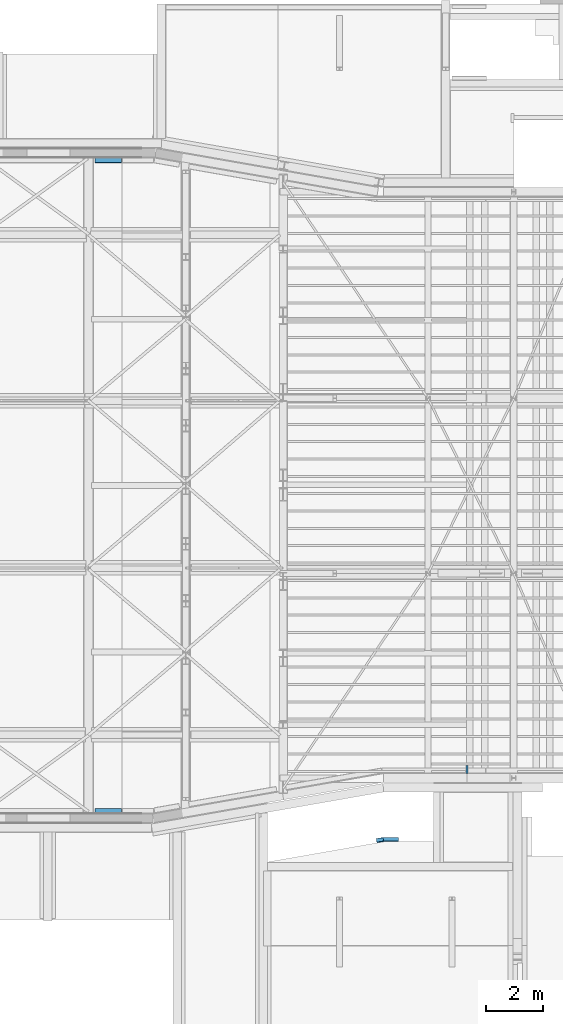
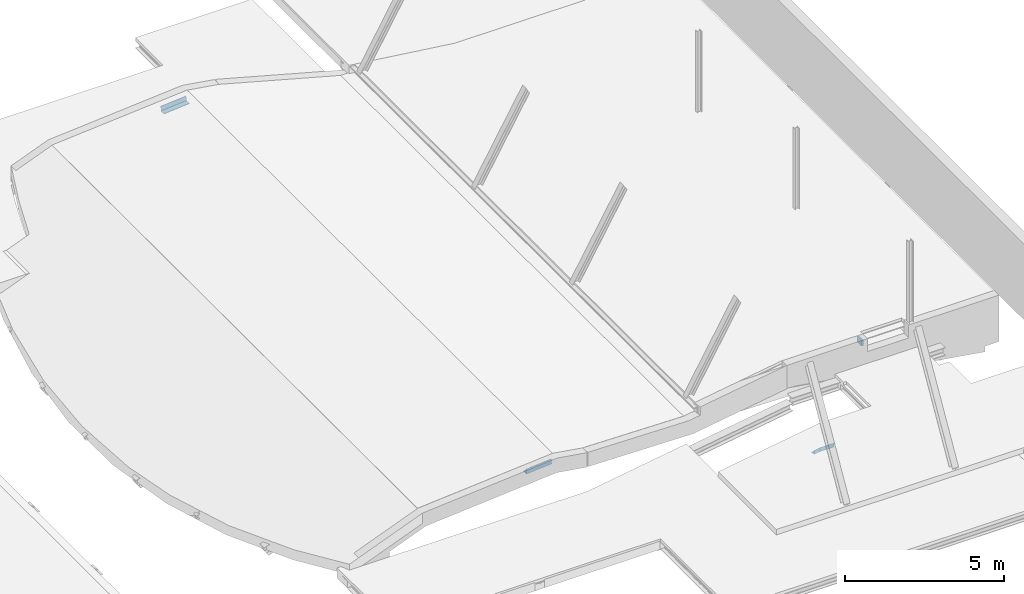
# One storey, part 35 of 50: 5 beams.
"""IFC2X3 building model written with IfcOpenShell, lengths in millimetres."""

import ifcopenshell
import ifcopenshell.guid

model = None  # the IFC model being written
_history = None  # IfcOwnerHistory: only IFC2X3 demands one
_inside = {}  # id of a spatial element -> (the spatial element, [elements in it])
_under = {}  # id of a project, library or spatial element -> (it, [spatial elements below it])
_declared = {}  # id of a project -> (the project, [libraries it declares])
_typed = {}  # id of a type object -> (the type object, [elements of that type])
_made_of = {}  # id of a material, layer set ... -> (it, [elements and type objects made of it])


def new_model(schema):
    """Start an empty IFC model of exactly this schema.

    Asked for "IFC4X3", IfcOpenShell would pick the latest addendum, in which some entities
    have other attributes; the version numbers below select the first issue.
    IFC2X3 requires an IfcOwnerHistory on every rooted entity: one is made here for all.
    """
    global model, _history
    if schema == "IFC4X3":
        model = ifcopenshell.file(schema_version=(4, 3, 0, 0))
    else:
        model = ifcopenshell.file(schema=schema)
    _inside.clear()
    _under.clear()
    _declared.clear()
    _typed.clear()
    _made_of.clear()
    _history = None
    if model.schema == "IFC2X3":
        org = make("IfcOrganization", Name="unknown")
        user = make(
            "IfcPersonAndOrganization",
            ThePerson=make("IfcPerson", FamilyName="unknown"),
            TheOrganization=org,
        )
        app = make(
            "IfcApplication",
            ApplicationDeveloper=org,
            Version="unknown",
            ApplicationFullName="unknown",
            ApplicationIdentifier="unknown",
        )
        _history = make(
            "IfcOwnerHistory",
            OwningUser=user,
            OwningApplication=app,
            ChangeAction="ADDED",
            CreationDate=0,
        )
    return model


def make(cls, **values):
    """One entity of the class cls with the attributes given. An attribute that is None is left unset."""
    return model.create_entity(
        cls, **{name: value for name, value in values.items() if value is not None}
    )


def entity(cls, *values):
    """Any entity or typed value of the class cls, its attributes in the order of the schema. None: left unset."""
    e = model.create_entity(cls)
    for i, value in enumerate(values):
        if value is not None:
            e[i] = value
    return e


def rooted(cls, **values):
    """An entity with a GlobalId (a new one), such as an element, a storey or a relation."""
    return make(cls, GlobalId=ifcopenshell.guid.new(), OwnerHistory=_history, **values)


def si_unit(unit_type, name, prefix=None):
    """IfcSIUnit, for example si_unit("LENGTHUNIT", "METRE", prefix="MILLI")."""
    return make("IfcSIUnit", UnitType=unit_type, Prefix=prefix, Name=name)


def converted_unit(unit_type, name, factor, base, dimensions=None, offset=None):
    """IfcConversionBasedUnit, such as the inch: factor (a typed value) times the base unit."""
    return make(
        "IfcConversionBasedUnit"
        if offset is None
        else "IfcConversionBasedUnitWithOffset",
        ConversionOffset=offset,
        Dimensions=None
        if dimensions is None
        else entity("IfcDimensionalExponents", *dimensions),
        UnitType=unit_type,
        Name=name,
        ConversionFactor=make(
            "IfcMeasureWithUnit", ValueComponent=factor, UnitComponent=base
        ),
    )


def derived_unit(unit_type, elements):
    """IfcDerivedUnit: a product of units, each with its exponent."""
    return make(
        "IfcDerivedUnit",
        Elements=[
            make("IfcDerivedUnitElement", Unit=unit, Exponent=power)
            for unit, power in elements
        ],
        UnitType=unit_type,
    )


def assignment(units):
    """IfcUnitAssignment: the units of a project."""
    return None if units is None else make("IfcUnitAssignment", Units=units)


def point(xyz):
    """IfcCartesianPoint."""
    return None if xyz is None else make("IfcCartesianPoint", Coordinates=xyz)


def direction(xyz):
    """IfcDirection."""
    return None if xyz is None else make("IfcDirection", DirectionRatios=xyz)


def frame(location, z_axis=None, x_axis=None):
    """IfcAxis2Placement3D, a coordinate frame: its origin and axes. An axis left out is left unset."""
    return make(
        "IfcAxis2Placement3D",
        Location=point(location),
        Axis=direction(z_axis),
        RefDirection=direction(x_axis),
    )


def frame_2d(location, x_axis=None):
    """IfcAxis2Placement2D, a coordinate frame in the plane: its origin and x axis."""
    return make(
        "IfcAxis2Placement2D", Location=point(location), RefDirection=direction(x_axis)
    )


def origin():
    """The frame at (0, 0, 0) with its axes left unset."""
    return frame((0.0, 0.0, 0.0))


def place(relative_to, where):
    """IfcLocalPlacement: puts the frame where relative to a parent placement (None: the world)."""
    return make(
        "IfcLocalPlacement", PlacementRelTo=relative_to, RelativePlacement=where
    )


def context(
    kind, dimensions, precision=None, world=None, true_north=None, identifier=None
):
    """IfcGeometricRepresentationContext, for example the 3D "Model" context."""
    return make(
        "IfcGeometricRepresentationContext",
        ContextIdentifier=identifier,
        ContextType=kind,
        CoordinateSpaceDimension=dimensions,
        Precision=precision,
        WorldCoordinateSystem=world,
        TrueNorth=true_north,
    )


def subcontext(parent, identifier, kind, view, scale=None):
    """IfcGeometricRepresentationSubContext, for example "Body" below "Model"."""
    return make(
        "IfcGeometricRepresentationSubContext",
        ContextIdentifier=identifier,
        ContextType=kind,
        ParentContext=parent,
        TargetScale=scale,
        TargetView=view,
    )


def project(units=None, contexts=None):
    """IfcProject with its units and contexts."""
    return rooted(
        "IfcProject",
        Name="project",
        RepresentationContexts=contexts,
        UnitsInContext=assignment(units),
    )


def spatial(cls, under=None, at=None, **own):
    """A site, building, storey or space (cls), placed at a placement, below another one or the project."""
    s = rooted(cls, ObjectPlacement=at, **own)
    if under is not None:
        _under.setdefault(under.id(), (under, []))[1].append(s)
    return s


def polyline(points):
    """IfcPolyline through the points."""
    return make("IfcPolyline", Points=[point(p) for p in points])


def circle_curve(where, radius):
    """IfcCircle in the frame where."""
    return make("IfcCircle", Position=where, Radius=radius)


def parameter(value):
    """IfcParameterValue: where a trimmed curve begins or ends, as a parameter of its basis curve."""
    return model.create_entity("IfcParameterValue", value)


def trimmed(basis, trim1, trim2, sense, master):
    """IfcTrimmedCurve: the piece of a basis curve between two trims."""
    return make(
        "IfcTrimmedCurve",
        BasisCurve=basis,
        Trim1=trim1,
        Trim2=trim2,
        SenseAgreement=sense,
        MasterRepresentation=master,
    )


def segment(curve, same_sense, transition):
    """IfcCompositeCurveSegment."""
    return make(
        "IfcCompositeCurveSegment",
        Transition=transition,
        SameSense=same_sense,
        ParentCurve=curve,
    )


def composite_curve(segments, self_intersect=None):
    """IfcCompositeCurve: segments joined end to end."""
    return make("IfcCompositeCurve", Segments=segments, SelfIntersect=self_intersect)


def profile(cls, at=None, kind="AREA", **sizes):
    """A parametric profile (cls). Its sizes go by their IFC names, for example OverallWidth=200.0."""
    return make(cls, ProfileType=kind, Position=at, **sizes)


def rectangle(**sizes):
    """IfcRectangleProfileDef."""
    return profile("IfcRectangleProfileDef", **sizes)


def outline(outer, holes=None, kind="AREA"):
    """IfcArbitraryClosedProfileDef: a profile drawn as a closed curve; with holes, ...WithVoids."""
    if holes is None:
        return make("IfcArbitraryClosedProfileDef", ProfileType=kind, OuterCurve=outer)
    return make(
        "IfcArbitraryProfileDefWithVoids",
        ProfileType=kind,
        OuterCurve=outer,
        InnerCurves=holes,
    )


def extrude(swept, where, along, depth):
    """IfcExtrudedAreaSolid: the profile swept, set in the frame where, extruded along a direction by depth."""
    return make(
        "IfcExtrudedAreaSolid",
        SweptArea=swept,
        Position=where,
        ExtrudedDirection=direction(along),
        Depth=depth,
    )


def clip(a, b, op="DIFFERENCE"):
    """IfcBooleanClippingResult: the solid a cut by the half space b."""
    return make(
        "IfcBooleanClippingResult", Operator=op, FirstOperand=a, SecondOperand=b
    )


def halfspace(plane, agree):
    """IfcHalfSpaceSolid: all space on one side of the plane z = 0 of the frame plane."""
    return make(
        "IfcHalfSpaceSolid",
        BaseSurface=make("IfcPlane", Position=plane),
        AgreementFlag=agree,
    )


def shape(context_of_items, identifier, shape_type, items):
    """IfcShapeRepresentation: the items that make up one representation, for example the "Body"."""
    return make(
        "IfcShapeRepresentation",
        ContextOfItems=context_of_items,
        RepresentationIdentifier=identifier,
        RepresentationType=shape_type,
        Items=items,
    )


def material(Name=None, Category=None):
    """IfcMaterial."""
    return make("IfcMaterial", Name=Name, Category=Category)


def made_of(thing, what):
    """Note that an element or type object is made of a material, layer set ...; save() writes the relation."""
    if what is not None:
        _made_of.setdefault(what.id(), (what, []))[1].append(thing)
    return thing


def type_object(cls, material=None, **own):
    """A type object (cls), such as IfcWallType, which elements share."""
    return made_of(rooted(cls, **own), material)


def element(
    cls,
    number,
    at=None,
    inside=None,
    cuts=None,
    type_object=None,
    material=None,
    context=None,
    identifier="Body",
    shape_type=None,
    held_by="IfcProductDefinitionShape",
    body=None,
    shapes=None,
    **own,
):
    """One element of the class cls, such as IfcWall. Its Tag is "e" and its number.

    at: its placement. inside: the storey or other place that contains it. cuts: it is an
    opening in that element (IfcRelVoidsElement). A single representation is given by context,
    identifier, shape_type and body (its items); several are given by shapes. held_by: the class
    of the entity that holds the representations. save() writes the other relations.
    """
    e = rooted(cls, Tag="e%d" % number, ObjectPlacement=at, **own)
    if body is not None:
        shapes = [shape(context, identifier, shape_type, body)]
    if shapes is not None:
        e.Representation = make(held_by, Representations=shapes)
    if inside is not None:
        _inside.setdefault(inside.id(), (inside, []))[1].append(e)
    if cuts is not None:
        rooted(
            "IfcRelVoidsElement", RelatingBuildingElement=cuts, RelatedOpeningElement=e
        )
    if type_object is not None:
        _typed.setdefault(type_object.id(), (type_object, []))[1].append(e)
    return made_of(e, material)


def aggregate(whole, parts):
    """IfcRelAggregates: a whole, such as a stair, and the parts it consists of."""
    return rooted("IfcRelAggregates", RelatingObject=whole, RelatedObjects=parts)


def save(model, path):
    """Write the relations noted so far, then the file.

    IfcRelAggregates (storeys below a building ...), IfcRelContainedInSpatialStructure (elements
    in a storey), IfcRelDefinesByType, IfcRelAssociatesMaterial and IfcRelDeclares: one each for
    every whole, place, type object, material and project.
    """
    for whole, parts in _under.values():
        aggregate(whole, parts)
    for where, things in _inside.values():
        rooted(
            "IfcRelContainedInSpatialStructure",
            RelatedElements=things,
            RelatingStructure=where,
        )
    for kind, things in _typed.values():
        rooted("IfcRelDefinesByType", RelatedObjects=things, RelatingType=kind)
    for what, things in _made_of.values():
        rooted("IfcRelAssociatesMaterial", RelatedObjects=things, RelatingMaterial=what)
    for by, libraries in _declared.values():
        rooted("IfcRelDeclares", RelatingContext=by, RelatedDefinitions=libraries)
    model.write(path)


model = new_model("IFC2X3")

# Units and contexts
model_context = context("Model", 3, precision=0.01, world=origin(), true_north=direction((6.12303176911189e-17, 1.0)))
body_context = subcontext(model_context, "Body", "Model", "MODEL_VIEW")
ifc_project = project(units=[si_unit("LENGTHUNIT", "METRE", prefix="MILLI"), si_unit("AREAUNIT", "SQUARE_METRE", prefix="MILLI"), si_unit("VOLUMEUNIT", "CUBIC_METRE"), converted_unit("PLANEANGLEUNIT", "DEGREE", entity("IfcRatioMeasure", 0.0174532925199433), si_unit("PLANEANGLEUNIT", "RADIAN"), dimensions=[0, 0, 0, 0, 0, 0, 0]), si_unit("MASSUNIT", "GRAM", prefix="KILO"), derived_unit("MASSDENSITYUNIT", [(si_unit("MASSUNIT", "GRAM", prefix="KILO"), 1), (si_unit("LENGTHUNIT", "METRE"), -3)]), derived_unit("MOMENTOFINERTIAUNIT", [(si_unit("LENGTHUNIT", "METRE"), 4)]), si_unit("TIMEUNIT", "SECOND"), si_unit("FREQUENCYUNIT", "HERTZ"), si_unit("THERMODYNAMICTEMPERATUREUNIT", "DEGREE_CELSIUS"), derived_unit("THERMALTRANSMITTANCEUNIT", [(si_unit("MASSUNIT", "GRAM", prefix="KILO"), 1), (si_unit("THERMODYNAMICTEMPERATUREUNIT", "KELVIN"), -1), (si_unit("TIMEUNIT", "SECOND"), -3)]), derived_unit("VOLUMETRICFLOWRATEUNIT", [(si_unit("LENGTHUNIT", "METRE"), 3), (si_unit("TIMEUNIT", "SECOND"), -1)]), si_unit("ELECTRICCURRENTUNIT", "AMPERE"), si_unit("ELECTRICVOLTAGEUNIT", "VOLT"), si_unit("POWERUNIT", "WATT"), si_unit("FORCEUNIT", "NEWTON", prefix="KILO"), si_unit("ILLUMINANCEUNIT", "LUX"), si_unit("LUMINOUSFLUXUNIT", "LUMEN"), si_unit("LUMINOUSINTENSITYUNIT", "CANDELA"), derived_unit("USERDEFINED", [(si_unit("MASSUNIT", "GRAM", prefix="KILO"), -1), (si_unit("LENGTHUNIT", "METRE"), -2), (si_unit("TIMEUNIT", "SECOND"), 3), (si_unit("LUMINOUSFLUXUNIT", "LUMEN"), 1)]), derived_unit("LINEARVELOCITYUNIT", [(si_unit("LENGTHUNIT", "METRE"), 1), (si_unit("TIMEUNIT", "SECOND"), -1)]), si_unit("PRESSUREUNIT", "PASCAL"), derived_unit("USERDEFINED", [(si_unit("LENGTHUNIT", "METRE"), -2), (si_unit("MASSUNIT", "GRAM", prefix="KILO"), 1), (si_unit("TIMEUNIT", "SECOND"), -2)]), derived_unit("LINEARFORCEUNIT", [(si_unit("MASSUNIT", "GRAM", prefix="KILO"), 1), (si_unit("LENGTHUNIT", "METRE"), 1), (si_unit("TIMEUNIT", "SECOND"), -2), (si_unit("LENGTHUNIT", "METRE"), -1)]), derived_unit("PLANARFORCEUNIT", [(si_unit("MASSUNIT", "GRAM", prefix="KILO"), 1), (si_unit("LENGTHUNIT", "METRE"), 1), (si_unit("TIMEUNIT", "SECOND"), -2), (si_unit("LENGTHUNIT", "METRE"), -2)])], contexts=[model_context])

# Site, building, storey
site_placement = place(None, origin())
site = spatial("IfcSite", under=ifc_project, at=site_placement, Name="Theater aan de Parade", CompositionType="ELEMENT")
building_placement = place(site_placement, origin())
building = spatial("IfcBuilding", under=site, at=building_placement, Name="Theater aan de Parade", CompositionType="ELEMENT")
storey_placement = place(building_placement, frame((0.0, 0.0, 15820.0)))
storey = spatial("IfcBuildingStorey", under=building, at=storey_placement, Name="04 vierde verdieping", CompositionType="ELEMENT", Elevation=15820.0)

# Beams
ifc_material_1 = material(Name="00_PBT_MAT_staal_S355")
beam_type_1 = type_object("IfcBeamType", Name="28_PBT_SF_staal_L-profiel:S355_L150x150x15", PredefinedType="NOTDEFINED")
beam_1_placement = place(storey_placement, frame((59419.6462816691, 19961.9950637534, 0.0), z_axis=(0.0, 0.0, 1.0), x_axis=(0.985030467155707, 0.172380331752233, 0.0)))
element("IfcBeam", 1, at=beam_1_placement, inside=storey, type_object=beam_type_1, material=ifc_material_1, Name="28_PBT_SF_staal_L-profiel:S355_L150x150x15", ObjectType="28_PBT_SF_staal_L-profiel:S355_L150x150x15", context=body_context, shape_type="Clipping", body=[
    clip(extrude(outline(composite_curve([segment(polyline([(-93.3333333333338, -56.6666666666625), (56.6666666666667, -56.6666666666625)]), True, "CONTINUOUS"), segment(polyline([(56.6666666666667, -56.6666666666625), (56.6666666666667, 93.3333333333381)]), True, "CONTINUOUS"), segment(polyline([(56.6666666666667, 93.3333333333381), (49.6666666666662, 93.3333333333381)]), True, "CONTINUOUS"), segment(trimmed(circle_curve(frame_2d((49.6666666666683, 85.3333333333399), x_axis=(0.0, 1.0)), 8.00000000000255), [parameter(0.0)], [parameter(89.9999999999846)], True, "PARAMETER"), True, "CONTINUOUS"), segment(polyline([(41.6666666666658, 85.3333333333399), (41.6666666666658, -25.6666666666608)]), True, "CONTINUOUS"), segment(trimmed(circle_curve(frame_2d((25.6666666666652, -25.6666666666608), x_axis=(1.0, 0.0)), 16.0000000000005), [parameter(270.0)], [parameter(0.0)], True, "PARAMETER"), False, "CONTINUOUS"), segment(polyline([(25.6666666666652, -41.6666666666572), (-85.3333333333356, -41.6666666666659)]), True, "CONTINUOUS"), segment(trimmed(circle_curve(frame_2d((-85.3333333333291, -49.666666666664), x_axis=(0.0, 1.0)), 8.00000000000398), [parameter(0.0)], [parameter(89.9999999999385)], True, "PARAMETER"), True, "CONTINUOUS"), segment(polyline([(-93.3333333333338, -49.6666666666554), (-93.3333333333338, -56.6666666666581)]), True, "CONTINUOUS")], self_intersect=False)), frame((0.0, 14.1666666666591, -423.333333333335), z_axis=(1.0, 0.0, 0.0), x_axis=(0.0, 0.0, -1.0)), (0.0, 0.0, 1.0), 245.687415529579), halfspace(frame((245.687415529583, 107.500000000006, 1500.0), z_axis=(0.996250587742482, -0.0865145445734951, 0.0), x_axis=(0.0865145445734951, 0.996250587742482, 0.0)), False)),
])
beam_2_placement = place(storey_placement, frame((59432.1736277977, 20002.737517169, 0.0)))
element("IfcBeam", 2, at=beam_2_placement, inside=storey, type_object=beam_type_1, material=ifc_material_1, Name="28_PBT_SF_staal_L-profiel:S355_L150x150x15", ObjectType="28_PBT_SF_staal_L-profiel:S355_L150x150x15", context=body_context, shape_type="Clipping", body=[
    clip(extrude(outline(composite_curve([segment(polyline([(-93.3333333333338, -56.6666666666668), (56.6666666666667, -56.6666666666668)]), True, "CONTINUOUS"), segment(polyline([(56.6666666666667, -56.6666666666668), (56.6666666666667, 93.3333333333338)]), True, "CONTINUOUS"), segment(polyline([(56.6666666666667, 93.3333333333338), (49.6666666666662, 93.3333333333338)]), True, "CONTINUOUS"), segment(trimmed(circle_curve(frame_2d((49.666666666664, 85.3333333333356), x_axis=(0.0, 1.0)), 7.99999999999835), [parameter(0.0)], [parameter(90.0000000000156)], True, "PARAMETER"), True, "CONTINUOUS"), segment(polyline([(41.6666666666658, 85.3333333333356), (41.6666666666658, -25.6666666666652)]), True, "CONTINUOUS"), segment(trimmed(circle_curve(frame_2d((25.6666666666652, -25.6666666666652), x_axis=(1.0, 0.0)), 16.0000000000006), [parameter(270.0)], [parameter(0.0)], True, "PARAMETER"), False, "CONTINUOUS"), segment(polyline([(25.6666666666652, -41.6666666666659), (-85.3333333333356, -41.6666666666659)]), True, "CONTINUOUS"), segment(trimmed(circle_curve(frame_2d((-85.3333333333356, -49.666666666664), x_axis=(0.0, 1.0)), 7.99999999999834), [parameter(0.0)], [parameter(90.0000000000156)], True, "PARAMETER"), True, "CONTINUOUS"), segment(polyline([(-93.3333333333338, -49.666666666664), (-93.3333333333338, -56.6666666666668)]), True, "CONTINUOUS")], self_intersect=False)), frame((210.95135790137, 14.1666666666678, -423.333333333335), z_axis=(1.0, 0.0, 0.0), x_axis=(0.0, 0.0, -1.0)), (0.0, 0.0, 1.0), 532.413176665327), halfspace(frame((210.951357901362, 107.500000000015, 1500.0), z_axis=(-0.996250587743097, -0.0865145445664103, 0.0), x_axis=(-0.0865145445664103, 0.996250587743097, 0.0)), False)),
])
beam_type_2 = type_object("IfcBeamType", Name="28_PBT_SF_staal_L-profiel:S355_L200x200x20", PredefinedType="NOTDEFINED")
beam_3_placement = place(storey_placement, frame((49536.8455059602, 43853.2, 1993.94275331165), z_axis=(-0.0796770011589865, 0.0, 0.996820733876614), x_axis=(0.996820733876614, 0.0, 0.0796770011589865)))
element("IfcBeam", 3, at=beam_3_placement, inside=storey, type_object=beam_type_2, material=ifc_material_1, Name="28_PBT_SF_staal_L-profiel:S355_L200x200x20", ObjectType="28_PBT_SF_staal_L-profiel:S355_L200x200x20", context=body_context, shape_type="SweptSolid", body=[
    extrude(outline(composite_curve([segment(polyline([(64.5555555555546, -124.444444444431), (75.5555555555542, -124.444444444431)]), True, "CONTINUOUS"), segment(polyline([(75.5555555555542, -124.444444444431), (75.5555555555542, 75.5555555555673)]), True, "CONTINUOUS"), segment(polyline([(75.5555555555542, 75.5555555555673), (-124.444444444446, 75.5555555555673)]), True, "CONTINUOUS"), segment(polyline([(-124.444444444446, 75.5555555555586), (-124.444444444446, 64.5555555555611)]), True, "CONTINUOUS"), segment(trimmed(circle_curve(frame_2d((-115.444444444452, 64.5555555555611), x_axis=(-1.0, 0.0)), 8.99999999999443), [parameter(0.0)], [parameter(90.0000000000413)], True, "PARAMETER"), True, "CONTINUOUS"), segment(polyline([(-115.444444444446, 55.5555555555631), (37.5555555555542, 55.5555555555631)]), True, "CONTINUOUS"), segment(trimmed(circle_curve(frame_2d((37.5555555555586, 37.5555555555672), x_axis=(0.0, 1.0)), 17.9999999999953), [parameter(269.999999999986)], [parameter(0.0)], True, "PARAMETER"), False, "CONTINUOUS"), segment(polyline([(55.5555555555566, 37.5555555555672), (55.5555555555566, -115.444444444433)]), True, "CONTINUOUS"), segment(trimmed(circle_curve(frame_2d((64.5555555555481, -115.444444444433), x_axis=(-1.0, 0.0)), 8.99999999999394), [parameter(0.0)], [parameter(90.0000000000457)], True, "PARAMETER"), True, "CONTINUOUS")], self_intersect=False)), frame((0.0, -18.7555555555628, -319.444444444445), z_axis=(1.0, 0.0, 0.0), x_axis=(0.0, 0.0, -1.0)), (0.0, 0.0, 1.0), 920.000000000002),
])
beam_4_placement = place(storey_placement, frame((49536.8455059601, 20986.7999999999, 1993.94275331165), z_axis=(-0.0796770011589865, 0.0, 0.996820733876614), x_axis=(0.996820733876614, 0.0, 0.0796770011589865)))
element("IfcBeam", 4, at=beam_4_placement, inside=storey, type_object=beam_type_2, material=ifc_material_1, Name="28_PBT_SF_staal_L-profiel:S355_L200x200x20", ObjectType="28_PBT_SF_staal_L-profiel:S355_L200x200x20", context=body_context, shape_type="SweptSolid", body=[
    extrude(outline(composite_curve([segment(polyline([(-124.444444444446, -75.5555555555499), (75.555555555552, -75.55555555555)]), True, "CONTINUOUS"), segment(polyline([(75.555555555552, -75.55555555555), (75.5555555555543, 124.444444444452)]), True, "CONTINUOUS"), segment(polyline([(75.5555555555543, 124.444444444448), (64.5555555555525, 124.444444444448)]), True, "CONTINUOUS"), segment(trimmed(circle_curve(frame_2d((64.5555555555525, 115.444444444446), x_axis=(0.0, 1.0)), 8.99999999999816), [parameter(0.0)], [parameter(90.0000000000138)], True, "PARAMETER"), True, "CONTINUOUS"), segment(polyline([(55.5555555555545, 115.444444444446), (55.5555555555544, -37.5555555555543)]), True, "CONTINUOUS"), segment(trimmed(circle_curve(frame_2d((37.5555555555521, -37.5555555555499), x_axis=(1.0, 0.0)), 17.9999999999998), [parameter(270.0)], [parameter(0.0)], True, "PARAMETER"), False, "CONTINUOUS"), segment(polyline([(37.5555555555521, -55.5555555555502), (-115.444444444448, -55.5555555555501)]), True, "CONTINUOUS"), segment(trimmed(circle_curve(frame_2d((-115.44444444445, -64.5555555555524), x_axis=(0.0, 1.0)), 8.99999999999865), [parameter(0.0)], [parameter(90.0000000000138)], True, "PARAMETER"), True, "CONTINUOUS"), segment(polyline([(-124.444444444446, -64.5555555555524), (-124.444444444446, -75.5555555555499)]), True, "CONTINUOUS")], self_intersect=False)), frame((0.0, 18.7555555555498, -319.444444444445), z_axis=(1.0, 0.0, 0.0), x_axis=(0.0, 0.0, -1.0)), (0.0, 0.0, 1.0), 920.000000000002),
])
ifc_material_2 = material(Name="00_PBT_MAT_hout")
beam_type_3 = type_object("IfcBeamType", Name="28_PBT_SF_rechthoekig hout:70x220", PredefinedType="NOTDEFINED")
beam_5_placement = place(storey_placement, frame((62581.0560364, 22190.0, 0.0), z_axis=(0.0, 0.0, 1.0), x_axis=(0.0, 1.0, 0.0)))
element("IfcBeam", 5, at=beam_5_placement, inside=storey, type_object=beam_type_3, material=ifc_material_2, Name="28_PBT_SF_rechthoekig hout:70x220", ObjectType="28_PBT_SF_rechthoekig hout:70x220", context=body_context, shape_type="SweptSolid", body=[
    extrude(rectangle(XDim=220.000000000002, YDim=70.0000000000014, at=frame_2d((1.08002495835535e-12, 0.0), x_axis=(1.0, 0.0))), frame((162.700000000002, 0.0, 1212.0), z_axis=(1.0, 0.0, 0.0), x_axis=(0.0, 0.0, -1.0)), (0.0, 0.0, 1.0), 269.837517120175),
])

save(model, "model.ifc")
